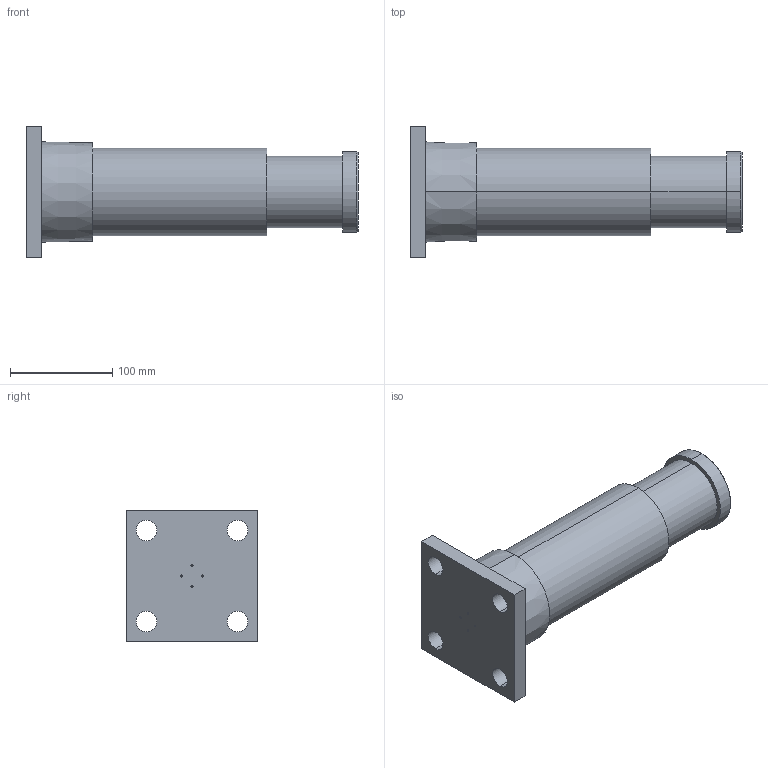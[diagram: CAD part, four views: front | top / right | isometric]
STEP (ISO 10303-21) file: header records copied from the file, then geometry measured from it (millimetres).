
FILE_DESCRIPTION (( 'STEP AP214' ), '1' );
FILE_NAME ('LDH80X50FR.STEP', '2019-01-21T04:54:40', ( 'user' ), ( 'Microsoft' ), 'SwSTEP 2.0', 'SolidWorks 2016', '' );
FILE_SCHEMA (( 'AUTOMOTIVE_DESIGN' ));
Length unit declared in the file: millimetre
Products named in the file (1): LDH80X50FR
Bounding box: 324 x 128 x 128 mm (x, y, z)
Volume: 1918106.4 mm3; surface area: 124387.1 mm2
Topology: 1 solids, 1 shells, 40 faces, 88 edges, 58 vertices
Faces by surface type: cylinder 22, plane 14, cone 4
Entity records: 1176 total; most frequent: DIRECTION 220, CARTESIAN_POINT 187, ORIENTED_EDGE 176, AXIS2_PLACEMENT_3D 91, EDGE_CURVE 88, VERTEX_POINT 58, EDGE_LOOP 56, CIRCLE 50
